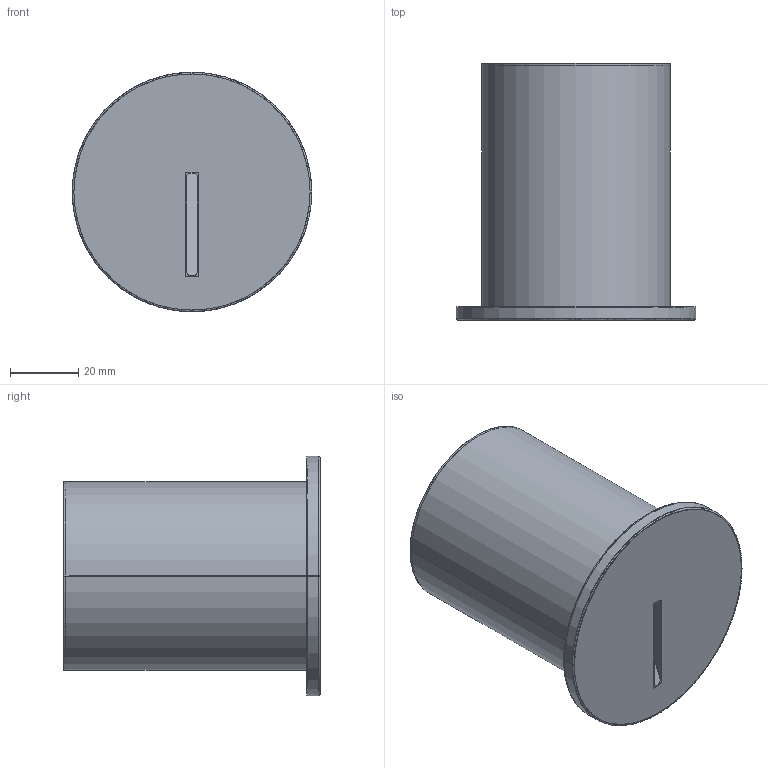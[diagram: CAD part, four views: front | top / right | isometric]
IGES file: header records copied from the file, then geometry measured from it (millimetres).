
Start section: SolidWorks IGES file using analytic representation for surfaces
Global section: file name: C:\Users\anna.bielnik\Desktop\ABBY LED\ABBY LED pm.IGS; native system: SolidWorks 2023; preprocessor: SolidWorks 2023; author: anna.bielnik; date: 241021.134829; units: millimetre
Bounding box: 70 x 75 x 70 mm (x, y, z)
Surface area: 41697.1 mm2 (no closed solid volume)
Topology: 0 solids, 0 shells, 55 faces, 1006 edges, 1006 vertices
Faces by surface type: bspline 33, revolution 22
